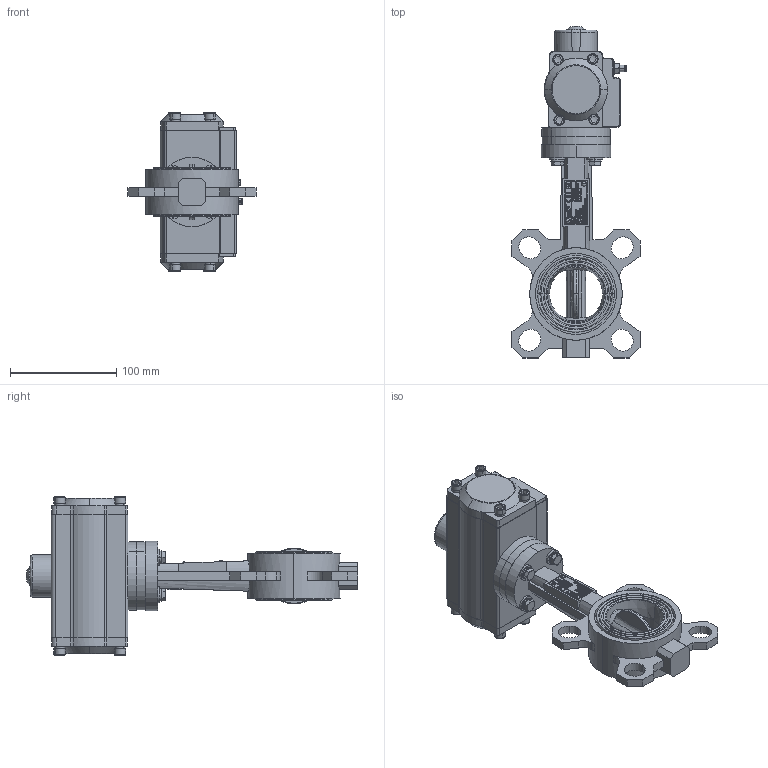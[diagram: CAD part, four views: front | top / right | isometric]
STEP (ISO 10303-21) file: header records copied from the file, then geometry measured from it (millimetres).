
FILE_DESCRIPTION (( 'STEP AP214' ), '1' );
FILE_NAME ('VP444X-N03XX0050.step', '2022-06-27T15:44:36', ( '' ), ( '' ), 'SwSTEP 2.0', 'SolidWorks 2020', '' );
FILE_SCHEMA (( 'AUTOMOTIVE_DESIGN' ));
Length unit declared in the file: millimetre
Products named in the file (1): VP444X-N03XX0050
Bounding box: 120.28 x 311.96 x 148.56 mm (x, y, z)
Surface area: 141135.2 mm2 (no closed solid volume)
Topology: 0 solids, 99 shells, 812 faces, 4597 edges, 3860 vertices
Faces by surface type: plane 416, cylinder 220, bspline 100, cone 72, torus 4
Entity records: 70389 total; most frequent: CARTESIAN_POINT 28754, ORIENTED_EDGE 6110, DIRECTION 5572, EDGE_CURVE 4593, VERTEX_POINT 3860, VECTOR 2558, LINE 2558, AXIS2_PLACEMENT_3D 1507
